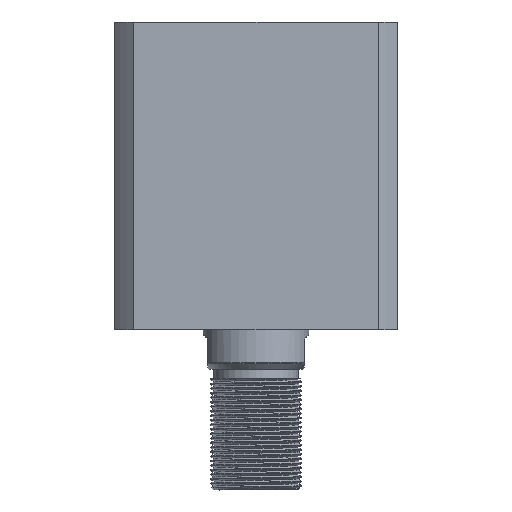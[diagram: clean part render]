
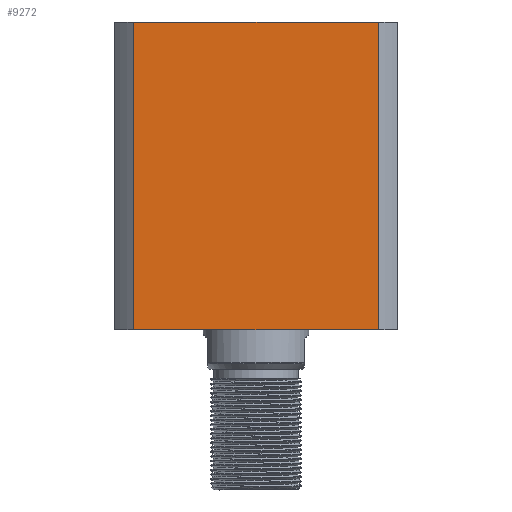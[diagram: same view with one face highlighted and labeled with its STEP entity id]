
A CAD part, front view. The second image highlights one B-rep face of the part: STEP entity #9272.
In plain terms, the highlighted planar face has unit normal (0, -1, 0) as drawn and (0, 1, 0) by its records, which use the part's own axes.
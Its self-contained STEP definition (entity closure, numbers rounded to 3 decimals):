
#39 = LINE ( 'NONE', #5658, #17976 ) ;
#660 = EDGE_CURVE ( 'NONE', #5900, #8142, #5567, .T. ) ;
#1443 = CARTESIAN_POINT ( 'NONE',  ( -47., 47., 0. ) ) ;
#3083 = EDGE_CURVE ( 'NONE', #7988, #11865, #39, .T. ) ;
#3554 = DIRECTION ( 'NONE',  ( -1., 0., 0. ) ) ;
#5311 = DIRECTION ( 'NONE',  ( 0., -1., 0. ) ) ;
#5567 = LINE ( 'NONE', #17300, #18891 ) ;
#5658 = CARTESIAN_POINT ( 'NONE',  ( -40.435, 47., -5898. ) ) ;
#5900 = VERTEX_POINT ( 'NONE', #11396 ) ;
#7095 = ORIENTED_EDGE ( 'NONE', *, *, #18039, .F. ) ;
#7101 = CARTESIAN_POINT ( 'NONE',  ( -47., 47., 102. ) ) ;
#7988 = VERTEX_POINT ( 'NONE', #12484 ) ;
#8021 = CARTESIAN_POINT ( 'NONE',  ( -40.435, 47., 0. ) ) ;
#8142 = VERTEX_POINT ( 'NONE', #17608 ) ;
#9272 = ADVANCED_FACE ( 'NONE', ( #15738 ), #15658, .F. ) ;
#9687 = AXIS2_PLACEMENT_3D ( 'NONE', #20825, #5311, #17481 ) ;
#11396 = CARTESIAN_POINT ( 'NONE',  ( 40.435, 47., 0. ) ) ;
#11865 = VERTEX_POINT ( 'NONE', #8021 ) ;
#12257 = ORIENTED_EDGE ( 'NONE', *, *, #3083, .F. ) ;
#12484 = CARTESIAN_POINT ( 'NONE',  ( -40.435, 47., 102. ) ) ;
#15658 = PLANE ( 'NONE',  #9687 ) ;
#15738 = FACE_OUTER_BOUND ( 'NONE', #17351, .T. ) ;
#16201 = VECTOR ( 'NONE', #3554, 1000. ) ;
#17300 = CARTESIAN_POINT ( 'NONE',  ( 40.435, 47., -5898. ) ) ;
#17351 = EDGE_LOOP ( 'NONE', ( #18494, #21949, #12257, #7095 ) ) ;
#17481 = DIRECTION ( 'NONE',  ( 0., 0., -1. ) ) ;
#17608 = CARTESIAN_POINT ( 'NONE',  ( 40.435, 47., 102. ) ) ;
#17738 = EDGE_CURVE ( 'NONE', #5900, #11865, #18913, .T. ) ;
#17804 = DIRECTION ( 'NONE',  ( 0., 0., -1. ) ) ;
#17976 = VECTOR ( 'NONE', #17804, 1000. ) ;
#18039 = EDGE_CURVE ( 'NONE', #8142, #7988, #21274, .T. ) ;
#18494 = ORIENTED_EDGE ( 'NONE', *, *, #660, .F. ) ;
#18891 = VECTOR ( 'NONE', #18943, 1000. ) ;
#18913 = LINE ( 'NONE', #1443, #22374 ) ;
#18943 = DIRECTION ( 'NONE',  ( 0., 0., 1. ) ) ;
#20467 = DIRECTION ( 'NONE',  ( -1., 0., 0. ) ) ;
#20825 = CARTESIAN_POINT ( 'NONE',  ( -47., 47., 102. ) ) ;
#21274 = LINE ( 'NONE', #7101, #16201 ) ;
#21949 = ORIENTED_EDGE ( 'NONE', *, *, #17738, .T. ) ;
#22374 = VECTOR ( 'NONE', #20467, 1000. ) ;
